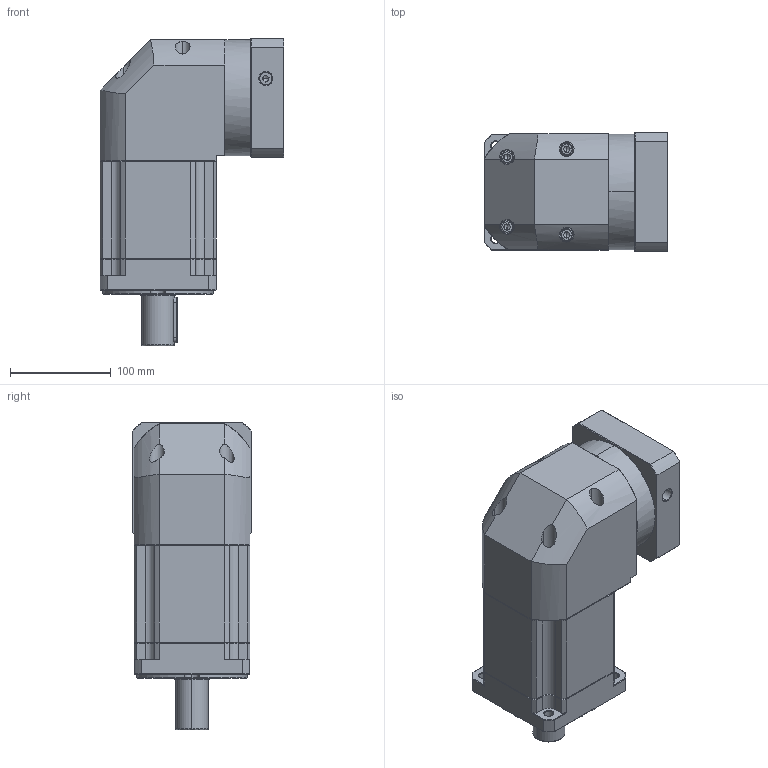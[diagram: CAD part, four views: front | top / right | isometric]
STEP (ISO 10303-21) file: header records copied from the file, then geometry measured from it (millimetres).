
FILE_DESCRIPTION (( 'STEP AP214' ), '1' );
FILE_NAME ('ZBR115A-D32-L3-P2-24-95-115-M6.step', '2023-08-26T12:41:07', ( '' ), ( '' ), 'SwSTEP 2.0', 'SolidWorks 2016', '' );
FILE_SCHEMA (( 'AUTOMOTIVE_DESIGN' ));
Length unit declared in the file: millimetre
Products named in the file (1): ZBR115A-D32-L3-P2-24-95-115-M6
Bounding box: 182.4 x 118 x 305 mm (x, y, z)
Volume: 3533998.7 mm3; surface area: 263481 mm2
Topology: 6 solids, 6 shells, 2367 faces, 6188 edges, 3924 vertices
Faces by surface type: plane 1138, bspline 428, cylinder 424, cone 369, torus 8
Entity records: 128557 total; most frequent: CARTESIAN_POINT 47935, ORIENTED_EDGE 12316, DIRECTION 9716, EDGE_CURVE 6158, VECTOR 3970, LINE 3970, VERTEX_POINT 3924, AXIS2_PLACEMENT_3D 2873
